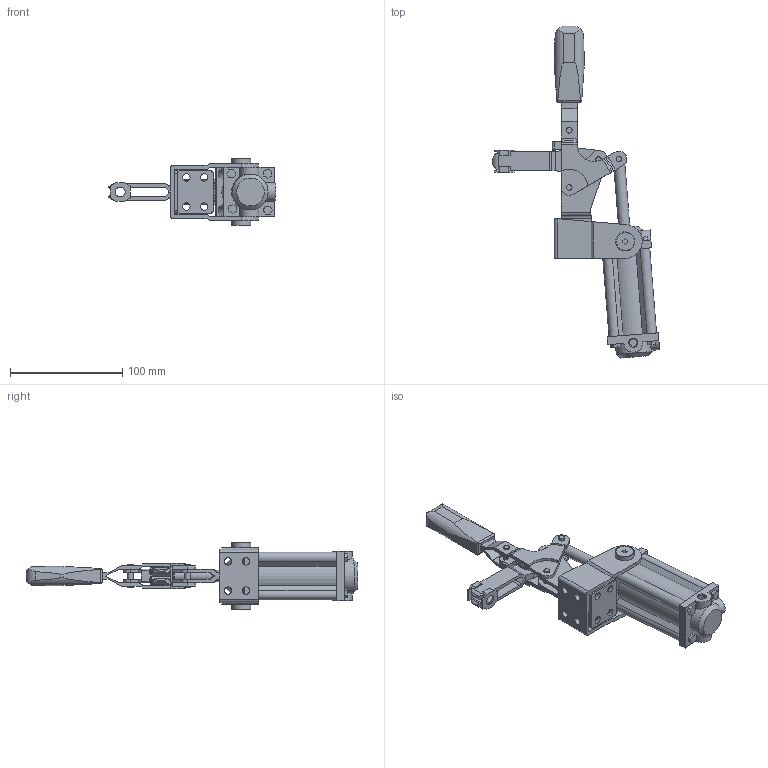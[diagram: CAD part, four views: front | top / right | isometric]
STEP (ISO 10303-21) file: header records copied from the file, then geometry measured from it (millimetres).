
FILE_DESCRIPTION( ( 'STEP AP203' ), '1' );
FILE_NAME( 'C:/Temp/Ganter_Step_05_03_2020/data/2_4/gn862_1/gn862_1_apv3s/gn862_1_apv3s/Toggle clamp GN 862.1-200-APV3S (closed).stp', '2020-03-13T05:49:54', ( 'License CC BY-ND 4.0' ), ( 'CADENAS' ), ' ', 'PARTsolutions', ' ' );
FILE_SCHEMA( ( 'CONFIG_CONTROL_DESIGN' ) );
Length unit declared in the file: millimetre
Products named in the file (9): Toggle clamp GN 862.1-200-APV3S (closed); _Toggle clamp GN 862.1-200-APV3S-1; _Toggle clamp GN 862.1-200-APV3S (0)-5; _Toggle clamp GN 862.1-200-APV3S (0)-4; _Toggle clamp GN 862.1-200-APV3S (0)-2; _Toggle clamp GN 862.1-200-APV3S-6; _Toggle clamp GN 862.1-200-APV3S (0)-3; _Toggle clamp GN 862.1-200-APV3S-7; _Toggle clamp GN 862.1-200-APV3S-8
Assembly tree (9 placements, depth 2):
  Toggle clamp GN 862.1-200-APV3S (closed)
    _Toggle clamp GN 862.1-200-APV3S-1
    _Toggle clamp GN 862.1-200-APV3S (0)-5
    _Toggle clamp GN 862.1-200-APV3S (0)-4
    _Toggle clamp GN 862.1-200-APV3S (0)-2
    _Toggle clamp GN 862.1-200-APV3S-6
    _Toggle clamp GN 862.1-200-APV3S (0)-3
    _Toggle clamp GN 862.1-200-APV3S-7
    _Toggle clamp GN 862.1-200-APV3S-8  x2
Bounding box: 149 x 296 x 59.5 mm (x, y, z)
Volume: 188088.1 mm3; surface area: 94083.1 mm2
Topology: 8 solids, 8 shells, 455 faces, 1235 edges, 824 vertices
Faces by surface type: plane 282, cylinder 136, torus 20, cone 17
Full cylindrical faces by diameter (mm): 5 x20, 6.5 x8, 6.647 x2, 8.566 x2, 8.8 x2, 10 x2, 15.8 x2, 17 x4, 22 x3, 32 x3
Entity records: 14651 total; most frequent: CARTESIAN_POINT 3508, ORIENTED_EDGE 2212, DIRECTION 2209, EDGE_CURVE 1106, VERTEX_POINT 767, AXIS2_PLACEMENT_3D 761, LINE 687, VECTOR 687
